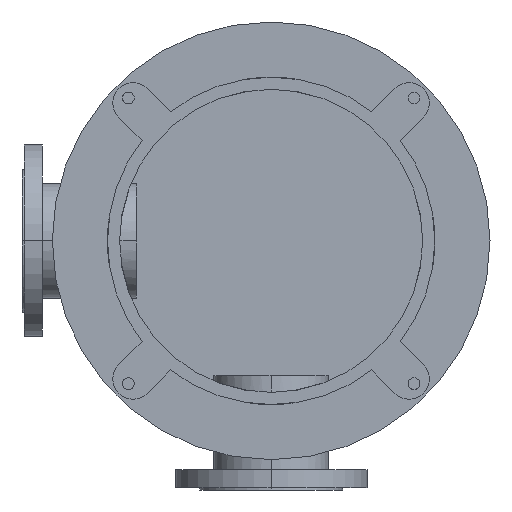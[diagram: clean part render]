
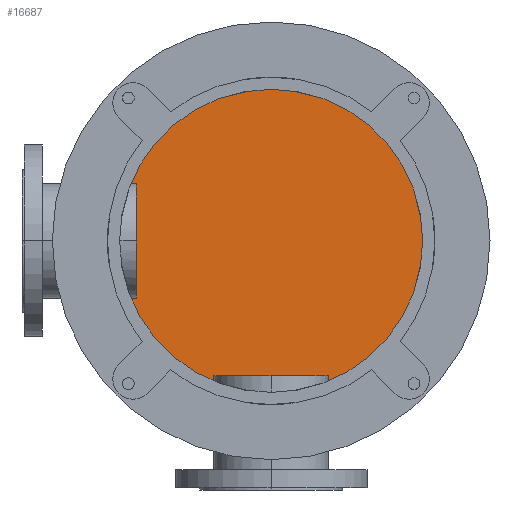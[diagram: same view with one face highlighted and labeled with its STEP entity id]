
A CAD part, front view. The second image highlights one B-rep face of the part: STEP entity #16687.
In plain terms, the highlighted planar face has unit normal (0, -1, 0).
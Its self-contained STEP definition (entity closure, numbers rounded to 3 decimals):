
#2855=CARTESIAN_POINT('',(0.,836.,0.));
#2856=DIRECTION('',(0.,-1.,0.));
#2857=DIRECTION('',(0.,0.,-1.));
#2858=AXIS2_PLACEMENT_3D('',#2855,#2856,#2857);
#3022=CARTESIAN_POINT('',(0.,836.,0.));
#3023=DIRECTION('',(0.,-1.,0.));
#3024=DIRECTION('',(0.,0.,1.));
#3025=AXIS2_PLACEMENT_3D('',#3022,#3023,#3024);
#8577=CARTESIAN_POINT('',(0.,836.,240.));
#8578=CARTESIAN_POINT('',(0.,836.,-240.));
#8579=VERTEX_POINT('',#8577);
#8580=VERTEX_POINT('',#8578);
#16678=CARTESIAN_POINT('',(0.,836.,0.));
#16679=DIRECTION('',(0.,1.,0.));
#16680=DIRECTION('',(0.,0.,-1.));
#16681=AXIS2_PLACEMENT_3D('',#16678,#16679,#16680);
#16682=PLANE('',#16681);
#16683=ORIENTED_EDGE('',*,*,#13735,.F.);
#16684=ORIENTED_EDGE('',*,*,#13595,.F.);
#16685=EDGE_LOOP('',(#16683,#16684));
#16686=FACE_OUTER_BOUND('',#16685,.F.);
#16687=ADVANCED_FACE('',(#16686),#16682,.F.);
#2859=CIRCLE('',#2858,240.);
#3026=CIRCLE('',#3025,240.);
#13595=EDGE_CURVE('',#8580,#8579,#2859,.T.);
#13735=EDGE_CURVE('',#8579,#8580,#3026,.T.);
